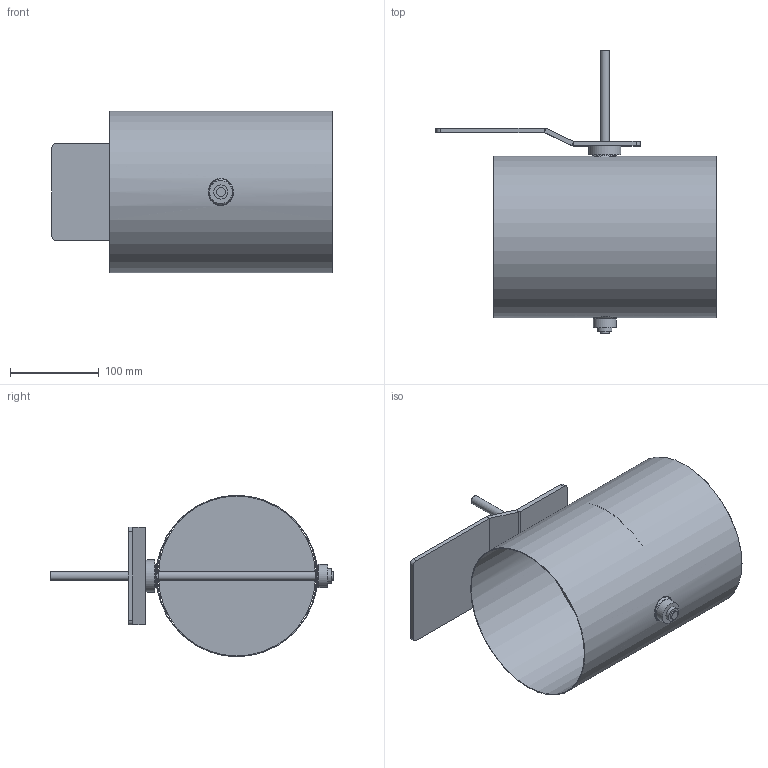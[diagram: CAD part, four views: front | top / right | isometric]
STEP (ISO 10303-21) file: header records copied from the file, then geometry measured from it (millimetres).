
FILE_DESCRIPTION(/* description */ (''),/* implementation_level */ '2;1');
FILE_NAME(/* name */ 'AA126-80B__180_L250_Belimo_Typen_NF_SF.stp',/* time_stamp */ '2017-12-06T14:00:41+01:00',/* author */ (''),/* organization */ (''),/* preprocessor_version */ 'ST-DEVELOPER v11',/* originating_system */ 'SIEMENS UGS NX 6.0',/* authorisation */ '');
FILE_SCHEMA (('CONFIG_CONTROL_DESIGN'));
Length unit declared in the file: millimetre
Products named in the file (1): gars18E2j23t
Bounding box: 315 x 319 x 181.6 mm (x, y, z)
Volume: 308568.4 mm3; surface area: 409641.3 mm2
Topology: 8 solids, 8 shells, 82 faces, 174 edges, 114 vertices
Faces by surface type: plane 40, cylinder 30, cone 4, bspline 4, torus 4
Full cylindrical faces by diameter (mm): 4.1 x4, 10 x3, 15 x3, 15.85 x2, 16 x2, 24 x2, 26 x1, 36 x1, 180 x1, 181.6 x1
Entity records: 2586 total; most frequent: CARTESIAN_POINT 905, DIRECTION 342, ORIENTED_EDGE 248, AXIS2_PLACEMENT_3D 147, EDGE_LOOP 144, EDGE_CURVE 124, FACE_BOUND 114, VERTEX_POINT 96
